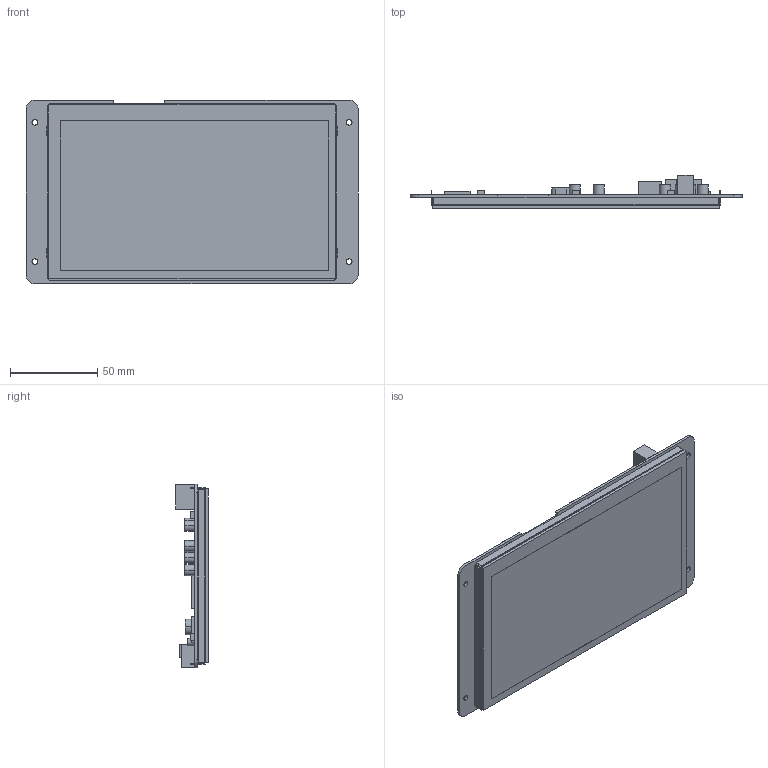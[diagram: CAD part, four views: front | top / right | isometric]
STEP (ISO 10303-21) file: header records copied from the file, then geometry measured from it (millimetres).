
FILE_DESCRIPTION((''),'2;1');
FILE_NAME('EKT070C_ASM','2021-08-24T',('Administrator'),(''),'PRO/ENGINEER BY PARAMETRIC TECHNOLOGY CORPORATION, 2014320','PRO/ENGINEER BY PARAMETRIC TECHNOLOGY CORPORATION, 2014320','');
FILE_SCHEMA(('CONFIG_CONTROL_DESIGN','SHAPE_APPEARANCE_LAYERS_GROUPS'));
Length unit declared in the file: millimetre
Products named in the file (5): TK070019; LI10600T070HA3004; TPC070T0050; PCB; EKT070C_ASM
Assembly tree (4 placements, depth 2):
  EKT070C_ASM
    TK070019
    LI10600T070HA3004
    TPC070T0050
    PCB
Bounding box: 190.5 x 18.88 x 105.41 mm (x, y, z)
Volume: 124536.3 mm3; surface area: 123237.9 mm2
Topology: 4 solids, 4 shells, 263 faces, 720 edges, 480 vertices
Faces by surface type: plane 199, cylinder 64
Entity records: 9586 total; most frequent: CARTESIAN_POINT 1472, ORIENTED_EDGE 1440, DIRECTION 1392, EDGE_CURVE 720, VECTOR 592, LINE 592, VERTEX_POINT 480, AXIS2_PLACEMENT_3D 400
